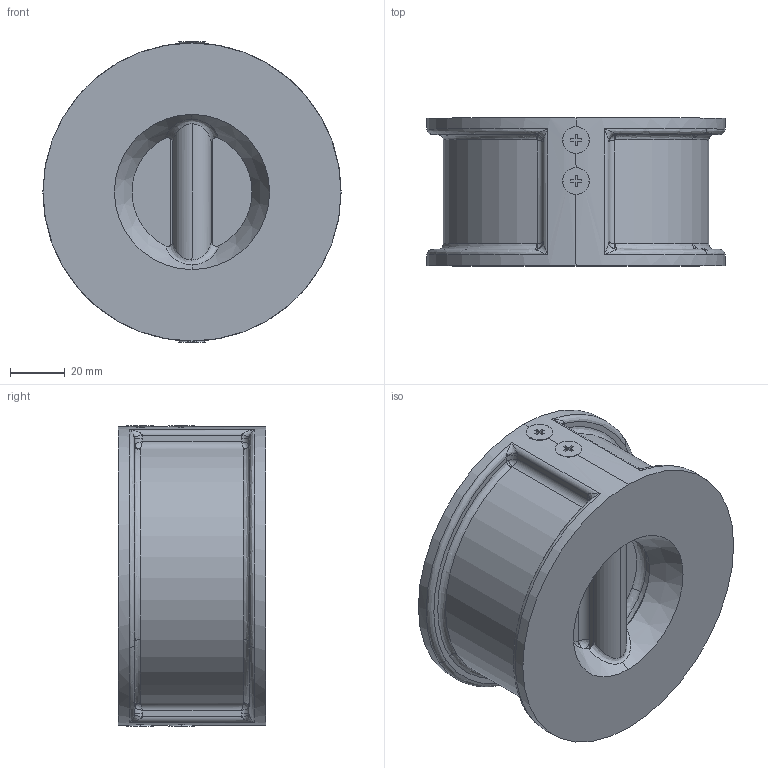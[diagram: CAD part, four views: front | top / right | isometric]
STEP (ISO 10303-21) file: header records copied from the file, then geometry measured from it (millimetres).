
FILE_DESCRIPTION (( 'STEP AP203' ), '1' );
FILE_NAME ('00.STEP', '2017-04-02T08:39:00', ( 'User' ), ( 'shendu' ), 'SwSTEP 2.0', 'SolidWorks 2015', '' );
FILE_SCHEMA (( 'CONFIG_CONTROL_DESIGN' ));
Length unit declared in the file: millimetre
Products named in the file (1): 00
Bounding box: 109 x 54 x 110 mm (x, y, z)
Volume: 279239.9 mm3; surface area: 68335.9 mm2
Topology: 15 solids, 15 shells, 477 faces, 1155 edges, 665 vertices
Faces by surface type: bspline 175, cylinder 147, plane 119, cone 36
Entity records: 28306 total; most frequent: CARTESIAN_POINT 18560, ORIENTED_EDGE 2240, DIRECTION 1625, EDGE_CURVE 1120, VERTEX_POINT 665, AXIS2_PLACEMENT_3D 599, EDGE_LOOP 501, FACE_OUTER_BOUND 477
